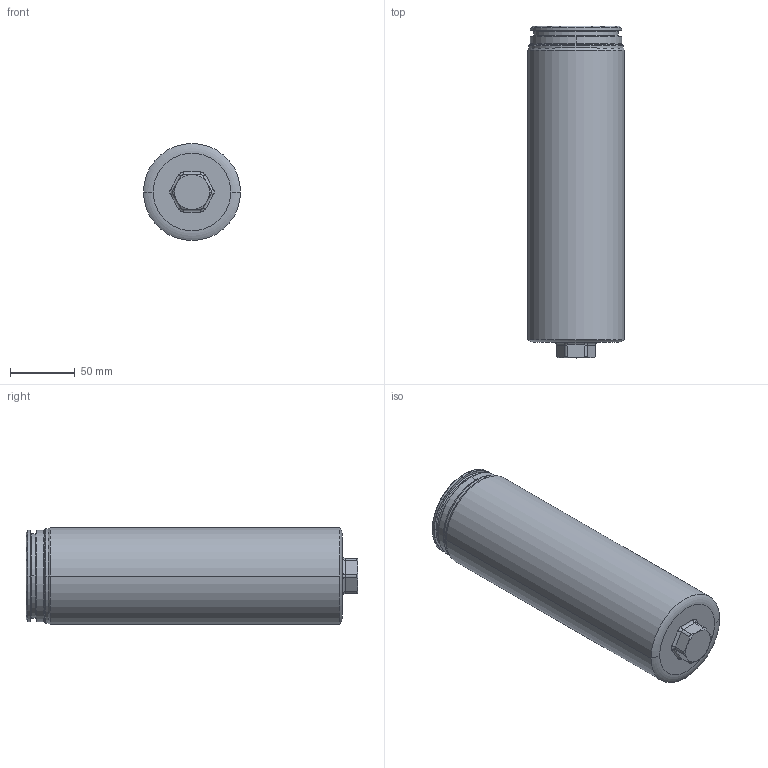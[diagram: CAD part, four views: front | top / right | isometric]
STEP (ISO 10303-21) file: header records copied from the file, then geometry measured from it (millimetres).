
FILE_DESCRIPTION((''),'2;1');
FILE_NAME('11270600_120765','2019-07-04T',('c.kretz'),(''),'PRO/ENGINEER BY PARAMETRIC TECHNOLOGY CORPORATION, 2015110','PRO/ENGINEER BY PARAMETRIC TECHNOLOGY CORPORATION, 2015110','');
FILE_SCHEMA(('AUTOMOTIVE_DESIGN { 1 0 10303 214 1 1 1 1 }'));
Length unit declared in the file: millimetre
Products named in the file (1): 11270600_120765
Bounding box: 75 x 256.5 x 75 mm (x, y, z)
Volume: 1046407.2 mm3; surface area: 69219.9 mm2
Topology: 1 solids, 1 shells, 69 faces, 152 edges, 90 vertices
Faces by surface type: cylinder 24, torus 22, plane 13, cone 10
Entity records: 3061 total; most frequent: CARTESIAN_POINT 425, DIRECTION 368, ORIENTED_EDGE 304, AXIS2_PLACEMENT_3D 161, PRESENTATION_STYLE_ASSIGNMENT 153, STYLED_ITEM 153, CURVE_STYLE 152, EDGE_CURVE 152
